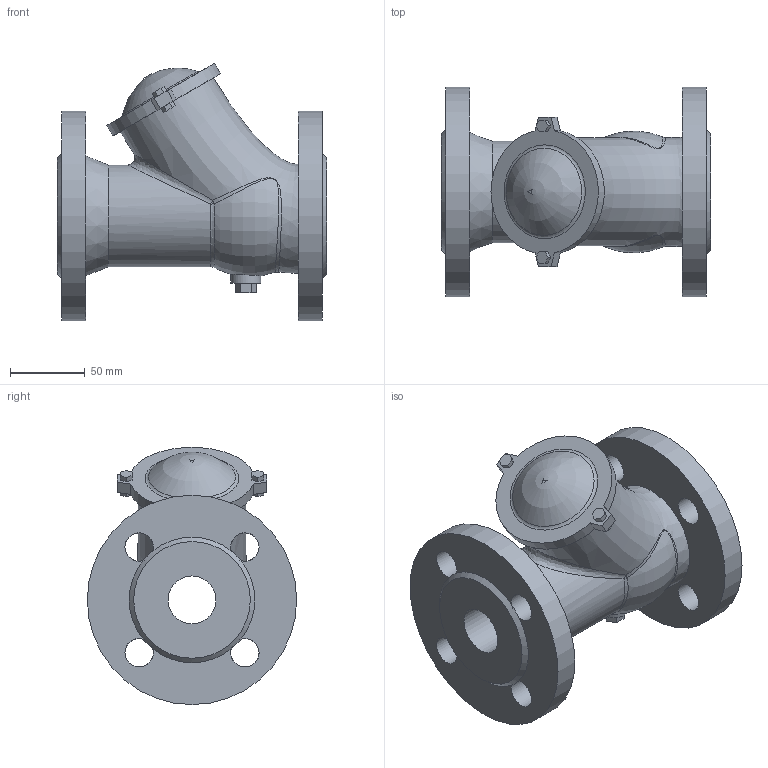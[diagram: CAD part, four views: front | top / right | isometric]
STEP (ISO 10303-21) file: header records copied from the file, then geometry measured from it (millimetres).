
FILE_DESCRIPTION(('STEP AP203'), '1');
FILE_NAME('抔黽鳧 012F.M DN32', '', ('UNSPECIFIED'), ('UNSPECIFIED'), 'ASCON STEP Converter 1.6', 'ASCON Math Kernel', '');
FILE_SCHEMA(('CONFIG_CONTROL_DESIGN'));
Length unit declared in the file: millimetre
Products named in the file (1): Клапан 012F.M DN32
Bounding box: 180 x 140 x 172 mm (x, y, z)
Volume: 1214173.8 mm3; surface area: 138494.2 mm2
Topology: 1 solids, 2 shells, 108 faces, 274 edges, 169 vertices
Faces by surface type: plane 68, cylinder 28, bspline 5, torus 4, cone 3
Full cylindrical faces by diameter (mm): 19 x8, 20 x1, 32 x1, 68 x1, 140 x2
Entity records: 7181 total; most frequent: CARTESIAN_POINT 3766, DIRECTION 505, ORIENTED_EDGE 500, EDGE_CURVE 253, AXIS2_PLACEMENT_3D 187, VERTEX_POINT 167, EDGE_LOOP 152, LINE 131
